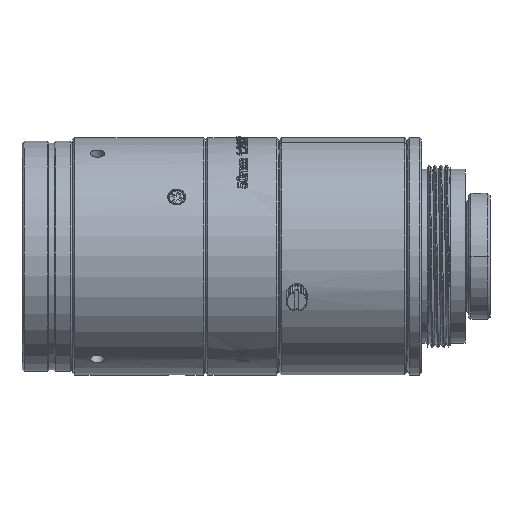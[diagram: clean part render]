
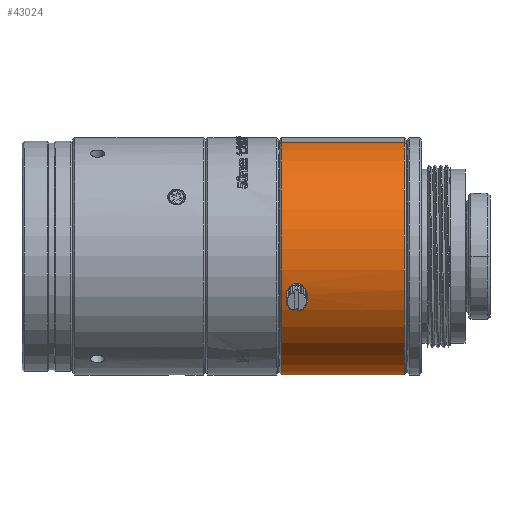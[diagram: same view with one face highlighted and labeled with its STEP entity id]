
A CAD part, top view. The second image highlights one B-rep face of the part: STEP entity #43024.
In plain terms, the highlighted cylindrical face has radius 16.5 mm (diameter 33 mm), a partial arc.
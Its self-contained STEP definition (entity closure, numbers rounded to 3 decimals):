
#11015=CARTESIAN_POINT('',(36.582,0.,0.));
#11016=DIRECTION('',(-1.,0.,0.));
#11017=DIRECTION('',(0.,-0.958,-0.287));
#11018=AXIS2_PLACEMENT_3D('',#11015,#11016,#11017);
#11024=CARTESIAN_POINT('',(20.632,-4.741,15.804));
#11025=CARTESIAN_POINT('',(20.632,-4.844,
15.773));
#11026=CARTESIAN_POINT('',(20.664,-5.039,
15.713));
#11027=CARTESIAN_POINT('',(20.816,-5.321,
15.619));
#11028=CARTESIAN_POINT('',(21.046,-5.531,
15.546));
#11029=CARTESIAN_POINT('',(21.335,-5.664,
15.497));
#11030=CARTESIAN_POINT('',(21.636,-5.703,
15.483));
#11031=CARTESIAN_POINT('',(21.906,-5.666,
15.497));
#11032=CARTESIAN_POINT('',(22.141,-5.571,
15.531));
#11033=CARTESIAN_POINT('',(22.347,-5.422,
15.584));
#11034=CARTESIAN_POINT('',(22.51,-5.223,
15.652));
#11035=CARTESIAN_POINT('',(22.612,-4.982,
15.73));
#11036=CARTESIAN_POINT('',(22.632,-4.823,15.78));
#11037=CARTESIAN_POINT('',(22.632,-4.741,15.804));
#11039=CARTESIAN_POINT('',(22.632,-4.741,15.804));
#11040=CARTESIAN_POINT('',(22.632,-4.639,15.835));
#11041=CARTESIAN_POINT('',(22.6,-4.443,
15.892));
#11042=CARTESIAN_POINT('',(22.448,-4.156,
15.969));
#11043=CARTESIAN_POINT('',(22.218,-3.94,
16.023));
#11044=CARTESIAN_POINT('',(21.929,-3.802,
16.056));
#11045=CARTESIAN_POINT('',(21.628,-3.762,
16.065));
#11046=CARTESIAN_POINT('',(21.359,-3.801,
16.056));
#11047=CARTESIAN_POINT('',(21.123,-3.898,
16.033));
#11048=CARTESIAN_POINT('',(20.917,-4.052,
15.995));
#11049=CARTESIAN_POINT('',(20.754,-4.256,
15.942));
#11050=CARTESIAN_POINT('',(20.653,-4.5,
15.875));
#11051=CARTESIAN_POINT('',(20.632,-4.66,
15.829));
#11052=CARTESIAN_POINT('',(20.632,-4.741,15.804));
#11058=DIRECTION('',(1.,0.,0.));
#11059=VECTOR('',#11058,17.1);
#11060=CARTESIAN_POINT('',(19.482,-15.804,-4.741));
#11061=LINE('',#11060,#11059);
#11062=DIRECTION('',(-1.,0.,0.));
#11063=VECTOR('',#11062,17.1);
#11064=CARTESIAN_POINT('',(36.582,15.804,4.741));
#11065=LINE('',#11064,#11063);
#11202=CARTESIAN_POINT('',(19.482,0.,0.));
#11203=DIRECTION('',(1.,0.,0.));
#11204=DIRECTION('',(0.,0.958,0.287));
#11205=AXIS2_PLACEMENT_3D('',#11202,#11203,#11204);
#24671=CARTESIAN_POINT('',(36.582,-15.804,-4.741));
#24672=VERTEX_POINT('',#24671);
#24673=CARTESIAN_POINT('',(36.582,15.804,4.741));
#24674=VERTEX_POINT('',#24673);
#24675=CARTESIAN_POINT('',(19.482,-15.804,-4.741));
#24676=VERTEX_POINT('',#24675);
#24677=CARTESIAN_POINT('',(19.482,15.804,4.741));
#24678=VERTEX_POINT('',#24677);
#27812=VERTEX_POINT('',#11024);
#27813=VERTEX_POINT('',#11037);
#43004=CARTESIAN_POINT('',(19.14,0.,0.));
#43005=DIRECTION('',(1.,0.,0.));
#43006=DIRECTION('',(0.,0.958,0.287));
#43007=AXIS2_PLACEMENT_3D('',#43004,#43005,#43006);
#43008=CYLINDRICAL_SURFACE('',#43007,16.5);
#43010=ORIENTED_EDGE('',*,*,#43009,.F.);
#43012=ORIENTED_EDGE('',*,*,#43011,.F.);
#43014=ORIENTED_EDGE('',*,*,#43013,.F.);
#43015=ORIENTED_EDGE('',*,*,#42997,.F.);
#43016=EDGE_LOOP('',(#43010,#43012,#43014,#43015));
#43017=FACE_OUTER_BOUND('',#43016,.F.);
#43019=ORIENTED_EDGE('',*,*,#43018,.T.);
#43021=ORIENTED_EDGE('',*,*,#43020,.T.);
#43022=EDGE_LOOP('',(#43019,#43021));
#43023=FACE_BOUND('',#43022,.F.);
#11019=CIRCLE('',#11018,16.5);
#11038=B_SPLINE_CURVE_WITH_KNOTS('',3,(#11024,#11025,#11026,#11027,#11028,
#11029,#11030,#11031,#11032,#11033,#11034,#11035,#11036,#11037),.UNSPECIFIED.,
.F.,.F.,(4,1,1,1,1,1,1,1,1,1,1,4),(0.,0.091,0.182,
0.273,0.364,0.455,0.545,
0.636,0.727,0.818,0.909,1.),
.UNSPECIFIED.);
#11053=B_SPLINE_CURVE_WITH_KNOTS('',3,(#11039,#11040,#11041,#11042,#11043,
#11044,#11045,#11046,#11047,#11048,#11049,#11050,#11051,#11052),.UNSPECIFIED.,
.F.,.F.,(4,1,1,1,1,1,1,1,1,1,1,4),(0.,0.091,0.182,
0.273,0.364,0.455,0.545,
0.636,0.727,0.818,0.909,1.),
.UNSPECIFIED.);
#11206=CIRCLE('',#11205,16.5);
#42997=EDGE_CURVE('',#24672,#24674,#11019,.T.);
#43009=EDGE_CURVE('',#24676,#24672,#11061,.T.);
#43011=EDGE_CURVE('',#24678,#24676,#11206,.T.);
#43013=EDGE_CURVE('',#24674,#24678,#11065,.T.);
#43018=EDGE_CURVE('',#27812,#27813,#11038,.T.);
#43020=EDGE_CURVE('',#27813,#27812,#11053,.T.);
#43024=ADVANCED_FACE('',(#43017,#43023),#43008,.T.);
